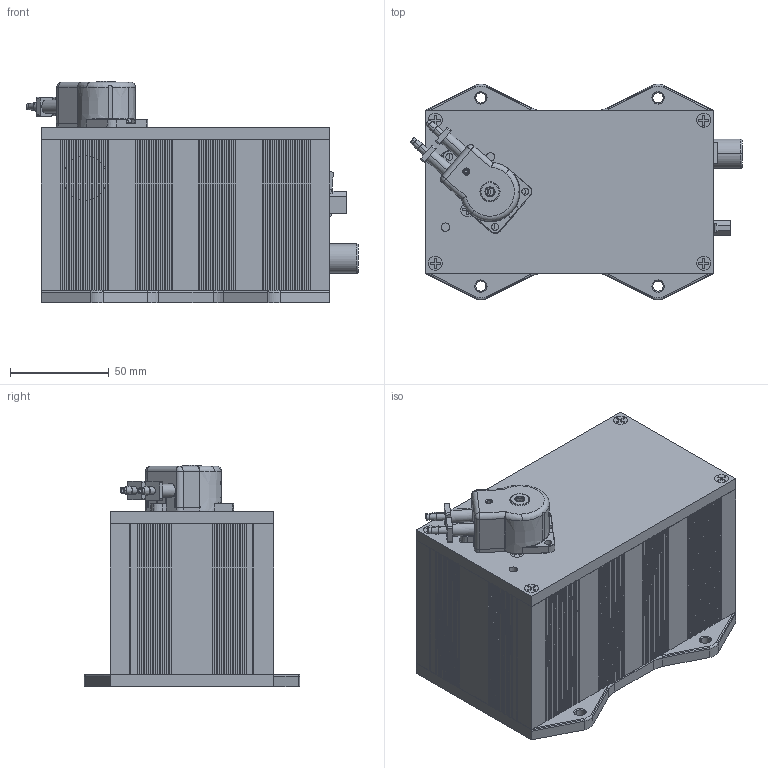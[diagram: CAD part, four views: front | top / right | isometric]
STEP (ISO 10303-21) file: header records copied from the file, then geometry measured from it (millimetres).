
FILE_DESCRIPTION(('STEP AP214'),'1');
FILE_NAME('GBX_Generic_Brushless_200_Head_Low_Flow_STEP.stp','2025-06-07T20:19:50',('Scott Beresford'),('Simply Pumps'),'Spatial InterOp 3D',' ',' ');
FILE_SCHEMA(('AUTOMOTIVE_DESIGN { 1 0 10303 214 1 1 1 1 }'));
Length unit declared in the file: inch
Products named in the file (1): Part_42118323
Bounding box: 168.01 x 109.22 x 112.3 mm (x, y, z)
Volume: 317033.3 mm3; surface area: 180018.3 mm2
Topology: 23 solids, 23 shells, 2192 faces, 6050 edges, 3896 vertices
Faces by surface type: plane 1553, cylinder 336, cone 136, torus 92, bspline 65, sphere 10
Entity records: 91423 total; most frequent: CARTESIAN_POINT 17652, ORIENTED_EDGE 12068, DIRECTION 11060, EDGE_CURVE 6034, LINE 4628, VECTOR 4628, VERTEX_POINT 3892, AXIS2_PLACEMENT_3D 3216
